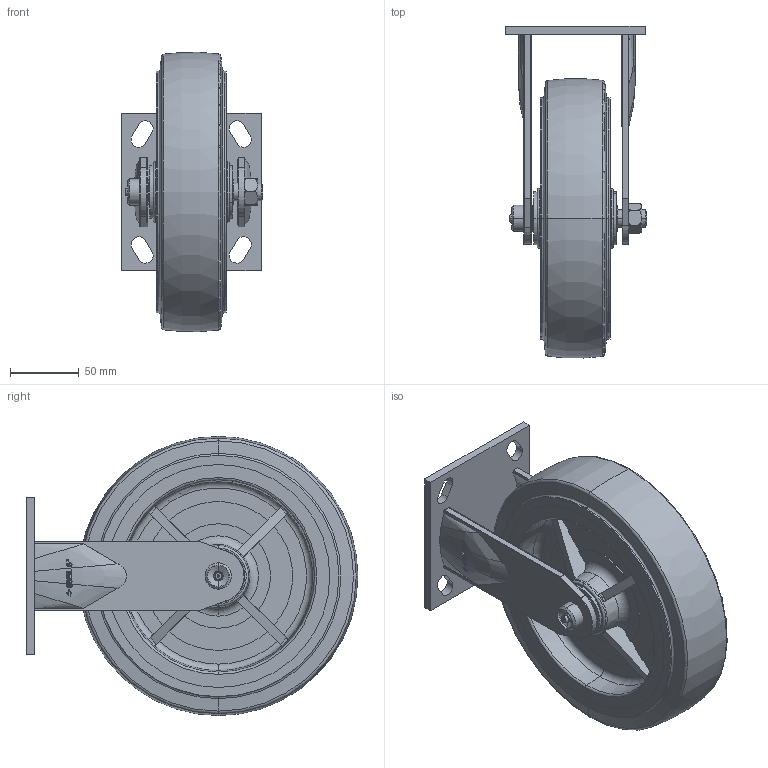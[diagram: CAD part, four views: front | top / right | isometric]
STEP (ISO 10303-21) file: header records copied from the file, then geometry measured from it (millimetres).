
FILE_DESCRIPTION (( 'STEP AP203' ), '1' );
FILE_NAME ('8渡蕨喳僻嘐隅謫14.STEP', '2023-03-06T07:59:40', ( 'amidn' ), ( '' ), 'SwSTEP 2.0', 'SolidWorks 2018', '' );
FILE_SCHEMA (( 'CONFIG_CONTROL_DESIGN' ));
Length unit declared in the file: millimetre
Products named in the file (1): 8渡蕨喳僻嘐隅謫14
Bounding box: 102.78 x 241.18 x 202.96 mm (x, y, z)
Volume: 1294141.9 mm3; surface area: 274251.9 mm2
Topology: 16 solids, 16 shells, 675 faces, 1740 edges, 1129 vertices
Faces by surface type: plane 326, cylinder 136, bspline 114, cone 52, torus 47
Entity records: 30425 total; most frequent: CARTESIAN_POINT 14874, ORIENTED_EDGE 3464, DIRECTION 2779, EDGE_CURVE 1732, VERTEX_POINT 1129, AXIS2_PLACEMENT_3D 982, LINE 815, VECTOR 815
